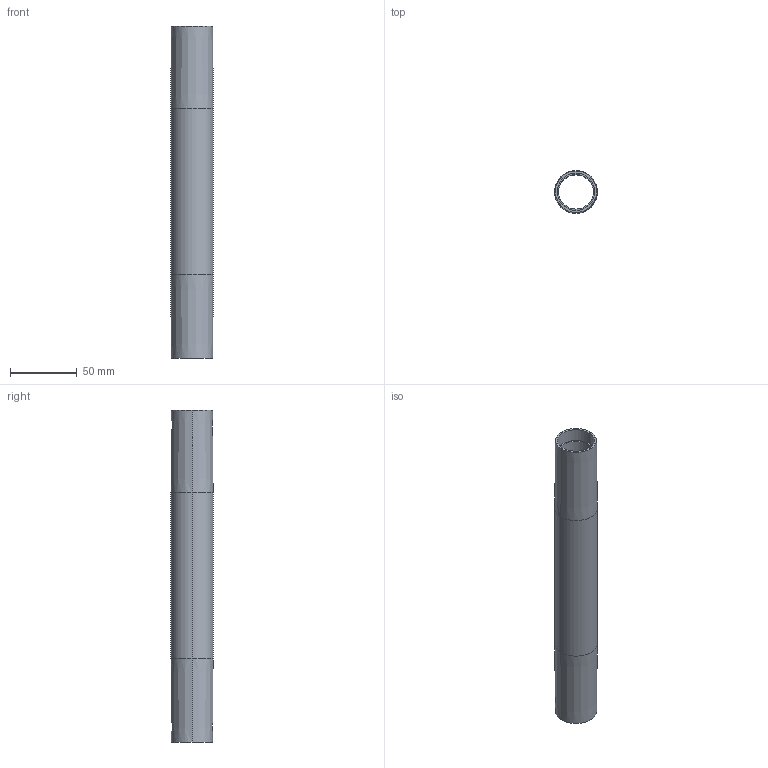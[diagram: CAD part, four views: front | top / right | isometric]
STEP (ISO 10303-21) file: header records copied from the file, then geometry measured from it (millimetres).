
FILE_DESCRIPTION (( 'STEP AP214' ), '1' );
FILE_NAME ('084.030.207.STEP', '2021-02-05T15:52:21', ( '' ), ( '' ), 'SwSTEP 2.0', 'SolidWorks 2018', '' );
FILE_SCHEMA (( 'AUTOMOTIVE_DESIGN' ));
Length unit declared in the file: millimetre
Products named in the file (1): 084.030.207
Bounding box: 32 x 32 x 249 mm (x, y, z)
Volume: 63263.4 mm3; surface area: 45749.1 mm2
Topology: 1 solids, 1 shells, 16 faces, 32 edges, 20 vertices
Faces by surface type: cylinder 8, cone 4, plane 4
Entity records: 462 total; most frequent: DIRECTION 86, CARTESIAN_POINT 69, ORIENTED_EDGE 64, AXIS2_PLACEMENT_3D 37, EDGE_CURVE 32, EDGE_LOOP 20, VERTEX_POINT 20, CIRCLE 20
